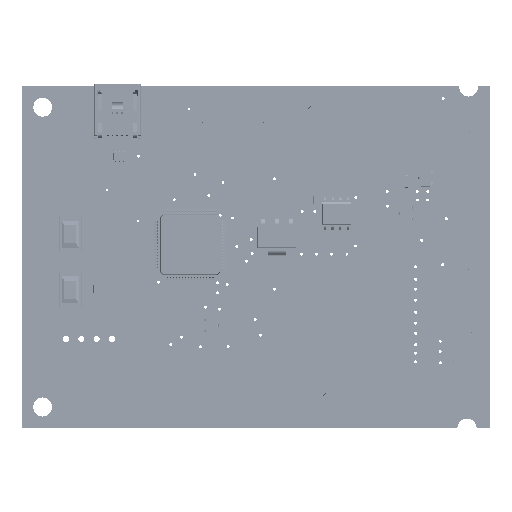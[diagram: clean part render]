
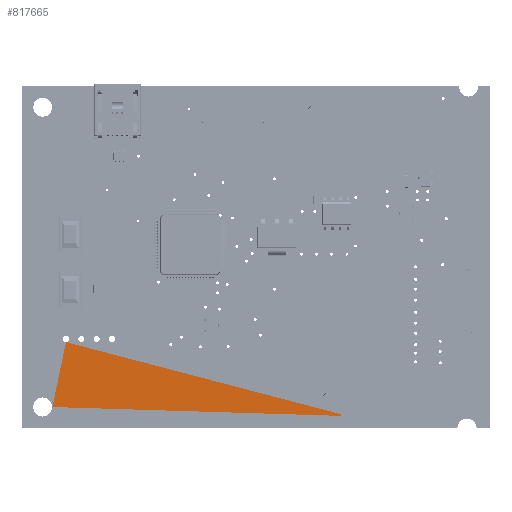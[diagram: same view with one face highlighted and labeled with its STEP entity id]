
A CAD part, top view. The second image highlights one B-rep face of the part: STEP entity #817665.
In plain terms, the highlighted planar face has unit normal (0, 0, 1).
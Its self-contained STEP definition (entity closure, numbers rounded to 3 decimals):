
#814037 = VERTEX_POINT('',#814038);
#814038 = CARTESIAN_POINT('',(53.973,2.006,0.8));
#815691 = EDGE_CURVE('',#815692,#814037,#815694,.T.);
#815692 = VERTEX_POINT('',#815693);
#815693 = CARTESIAN_POINT('',(7.29,14.252,0.8));
#815694 = LINE('',#815695,#815696);
#815695 = CARTESIAN_POINT('',(7.29,14.252,0.8));
#815696 = VECTOR('',#815697,1.);
#815697 = DIRECTION('',(0.967,-0.254,0.));
#817665 = ADVANCED_FACE('',(#817666),#817683,.T.);
#817666 = FACE_OUTER_BOUND('',#817667,.T.);
#817667 = EDGE_LOOP('',(#817668,#817676,#817677));
#817668 = ORIENTED_EDGE('',*,*,#817669,.T.);
#817669 = EDGE_CURVE('',#817670,#814037,#817672,.T.);
#817670 = VERTEX_POINT('',#817671);
#817671 = CARTESIAN_POINT('',(5.03,3.51,0.8));
#817672 = LINE('',#817673,#817674);
#817673 = CARTESIAN_POINT('',(5.03,3.51,0.8));
#817674 = VECTOR('',#817675,1.);
#817675 = DIRECTION('',(1.,-0.031,0.));
#817676 = ORIENTED_EDGE('',*,*,#815691,.F.);
#817677 = ORIENTED_EDGE('',*,*,#817678,.T.);
#817678 = EDGE_CURVE('',#815692,#817670,#817679,.T.);
#817679 = LINE('',#817680,#817681);
#817680 = CARTESIAN_POINT('',(7.29,14.252,0.8));
#817681 = VECTOR('',#817682,1.);
#817682 = DIRECTION('',(-0.206,-0.979,0.));
#817683 = PLANE('',#817684);
#817684 = AXIS2_PLACEMENT_3D('',#817685,#817686,#817687);
#817685 = CARTESIAN_POINT('',(27.638,5.775,0.8));
#817686 = DIRECTION('',(0.,0.,1.));
#817687 = DIRECTION('',(1.,0.,-0.));
